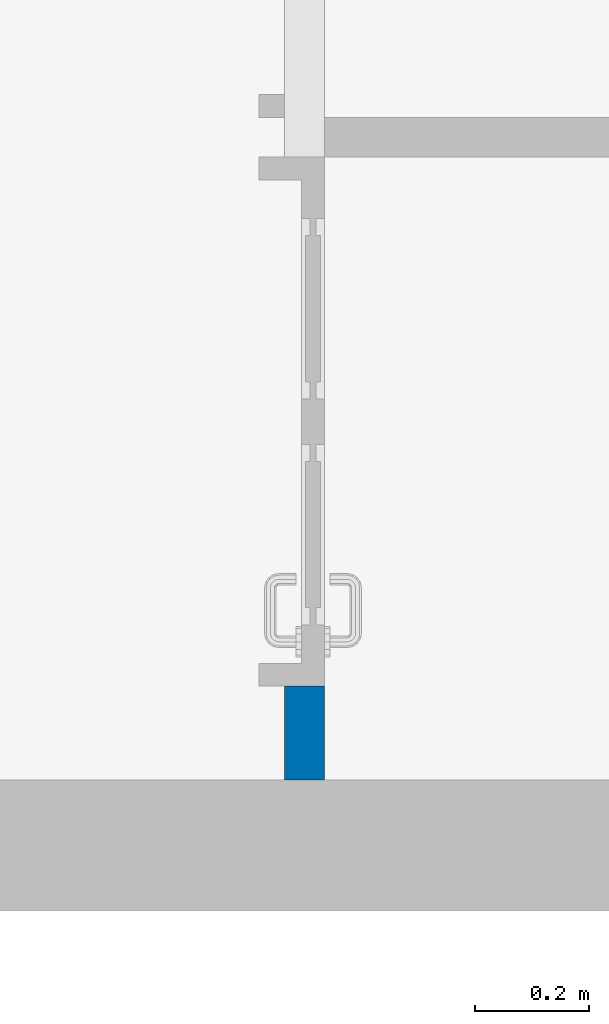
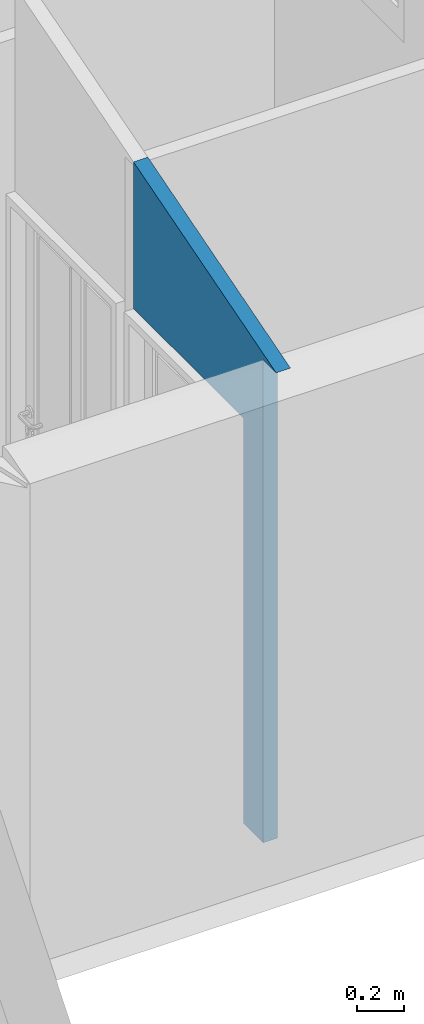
# One storey, part 6 of 8: 1 wall, 1 opening.
"""IFC2X3 building model written with IfcOpenShell, lengths in metres."""

from ifc_helpers import new_model, entity, si_unit, converted_unit, derived_unit, money_unit, direction, frame, origin_with_axes, origin_2d_with_axis, place, context, subcontext, project, spatial, polyline, rectangle, outline, extrude, boolean, clip, halfspace, faceted_brep, material, type_object, element, save


model = new_model("IFC2X3")

# Units and contexts
model_context = context("Model", 3, precision=1e-05, world=origin_with_axes(), true_north=direction((0.0, 1.0)))
body_context = subcontext(model_context, "Body", "Model", "MODEL_VIEW")
ifc_project = project(units=[si_unit("LENGTHUNIT", "METRE"), si_unit("AREAUNIT", "SQUARE_METRE"), si_unit("VOLUMEUNIT", "CUBIC_METRE"), converted_unit("PLANEANGLEUNIT", "DEGREE", entity("IfcPlaneAngleMeasure", 0.0174532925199), si_unit("PLANEANGLEUNIT", "RADIAN"), dimensions=[0, 0, 0, 0, 0, 0, 0]), si_unit("SOLIDANGLEUNIT", "STERADIAN"), money_unit("CHF"), converted_unit("TIMEUNIT", "Year", entity("IfcTimeMeasure", 31556926.0), si_unit("TIMEUNIT", "SECOND"), dimensions=[0, 0, 1, 0, 0, 0, 0]), si_unit("MASSUNIT", "GRAM", prefix="KILO"), si_unit("THERMODYNAMICTEMPERATUREUNIT", "DEGREE_CELSIUS"), si_unit("LUMINOUSINTENSITYUNIT", "LUMEN"), si_unit("ENERGYUNIT", "JOULE", prefix="MEGA"), derived_unit("THERMALCONDUCTANCEUNIT", [(si_unit("POWERUNIT", "WATT"), 1), (si_unit("LENGTHUNIT", "METRE"), -1), (si_unit("THERMODYNAMICTEMPERATUREUNIT", "KELVIN"), -1)]), derived_unit("SPECIFICHEATCAPACITYUNIT", [(si_unit("ENERGYUNIT", "JOULE"), 1), (si_unit("MASSUNIT", "GRAM", prefix="KILO"), -1), (si_unit("THERMODYNAMICTEMPERATUREUNIT", "KELVIN"), -1)]), derived_unit("MASSDENSITYUNIT", [(si_unit("MASSUNIT", "GRAM", prefix="KILO"), 1), (si_unit("VOLUMEUNIT", "CUBIC_METRE"), -1)])], contexts=[model_context])

# Site, building, storey
site_placement = place(None, origin_with_axes())
site = spatial("IfcSite", under=ifc_project, at=site_placement, Name="Site", CompositionType="ELEMENT")
building_placement = place(site_placement, origin_with_axes())
building = spatial("IfcBuilding", under=site, at=building_placement, Name="Bâtiment", CompositionType="ELEMENT")
storey_placement = place(building_placement, frame((0.0, 0.0, 6.0), z_axis=(0.0, 0.0, 1.0), x_axis=(1.0, 0.0, 0.0)))
storey = spatial("IfcBuildingStorey", under=building, at=storey_placement, Name="COMBLES", CompositionType="ELEMENT", Elevation=6.0)

# Wall, opening
ifc_material = material(Name="Hachure solide 2628782308")
wall_type = type_object("IfcWallType", Name="Hachure solide 2628782308 70", PredefinedType="NOTDEFINED")
wall_placement = place(storey_placement, frame((93.9988033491, 12.3751889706, -3.37), z_axis=(0.0, 0.0, 1.0), x_axis=(0.0, -1.0, 0.0)))
wall = element("IfcWall", 1, at=wall_placement, inside=storey, type_object=wall_type, material=ifc_material, Name="MurExt-012", context=body_context, shape_type="CSG", body=[
    boolean("DIFFERENCE", clip(extrude(outline(polyline([(-0.07, -0.07), (1.32484789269, -0.07), (1.32484789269, 0.0), (-0.07, 0.0), (-0.07, -0.07)])), origin_with_axes(), (0.0, 0.0, 1.0), 3.0), halfspace(frame((0.788918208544, 0.0, 2.6633432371), z_axis=(-0.284015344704, 0.0, -0.958819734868), x_axis=(0.0, 1.0, 0.0)), True)), faceted_brep([(0.0, -0.07, 3.0), (0.0, 0.0, 3.0), (-0.07, 0.0, 3.0), (-0.07, -0.07, 3.0), (0.0, 0.0, 2.91789043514), (0.0, -0.07, 2.91789043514), (1.27573672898, 0.0, 2.54), (1.32484788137, 0.0, 2.54), (1.32484789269, 0.0, 0.0), (-0.07, 0.0, 0.0), (1.09484788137, 0.0, 2.54), (1.20531800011, 0.0, 2.54), (0.0, 0.0, 2.89703145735), (0.0, 0.0, 2.8788335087), (0.0, 0.0, 0.05), (1.09484789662, 0.0, 0.05), (-0.07, -0.07, 0.0), (1.32484789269, -0.07, 0.0), (1.32484788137, -0.07, 2.54), (1.27573672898, -0.07, 2.54), (0.0, -0.07, 0.05), (0.0, -0.07, 2.8788335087), (0.0, -0.07, 2.89703145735), (1.20531800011, -0.07, 2.54), (1.09484788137, -0.07, 2.54), (1.09484789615, -0.07, 0.05)], [[[0, 1, 2, 3]], [[4, 1, 0, 5]], [[6, 7, 8, 9, 2, 1, 4], [10, 11, 12, 13, 14, 15]], [[2, 9, 16, 3]], [[5, 0, 3, 16, 17, 18, 19], [20, 21, 22, 23, 24, 25]], [[6, 4, 5, 19]], [[7, 6, 19, 18]], [[7, 18, 17, 8]], [[17, 16, 9, 8]], [[11, 10, 24, 23]], [[12, 11, 23, 22]], [[13, 12, 22, 21]], [[14, 13, 21, 20]], [[15, 14, 20, 25]], [[10, 15, 25, 24]]])),
])
opening_placement = place(wall_placement, frame((0.465, 0.0, 0.04), z_axis=(0.0, 0.0, 1.0), x_axis=(1.0, 0.0, 0.0)))
element("IfcOpeningElement", 2, at=opening_placement, cuts=wall, Name="Por-052", context=body_context, shape_type="SweptSolid", body=[
    extrude(rectangle(XDim=0.93, YDim=2.1, at=origin_2d_with_axis()), frame((0.0, -0.07, 1.05), z_axis=(0.0, -1.0, 0.0), x_axis=(-1.0, 0.0, 0.0)), (0.0, 0.0, -1.0), 0.21),
])

save(model, "model.ifc")
